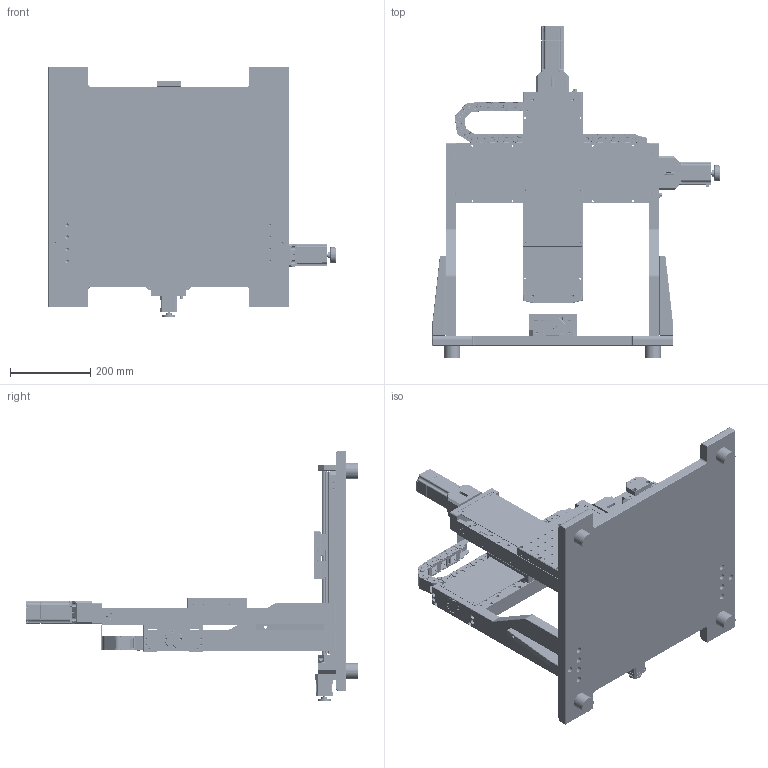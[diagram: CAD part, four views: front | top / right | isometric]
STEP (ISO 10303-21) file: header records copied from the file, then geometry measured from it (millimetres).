
FILE_DESCRIPTION (( 'STEP AP203' ), '1' );
FILE_NAME ('派迪威三轴龙门.STEP', '2023-07-19T22:44:46', ( '' ), ( '' ), 'SwSTEP 2.0', 'SolidWorks 2016', '' );
FILE_SCHEMA (( 'CONFIG_CONTROL_DESIGN' ));
Products named in the file (1): 派迪威三轴龙门
Bounding box: 716.5 x 827 x 625 mm (x, y, z)
Surface area: 3120379 mm2 (no closed solid volume)
Topology: 0 solids, 166 shells, 19625 faces, 49301 edges, 30455 vertices
Faces by surface type: plane 10019, cylinder 5325, bspline 2338, cone 1376, torus 431, sphere 136
Entity records: 704184 total; most frequent: CARTESIAN_POINT 257885, ORIENTED_EDGE 96524, DIRECTION 85292, EDGE_CURVE 48302, VERTEX_POINT 30299, AXIS2_PLACEMENT_3D 29758, LINE 25776, VECTOR 25776
